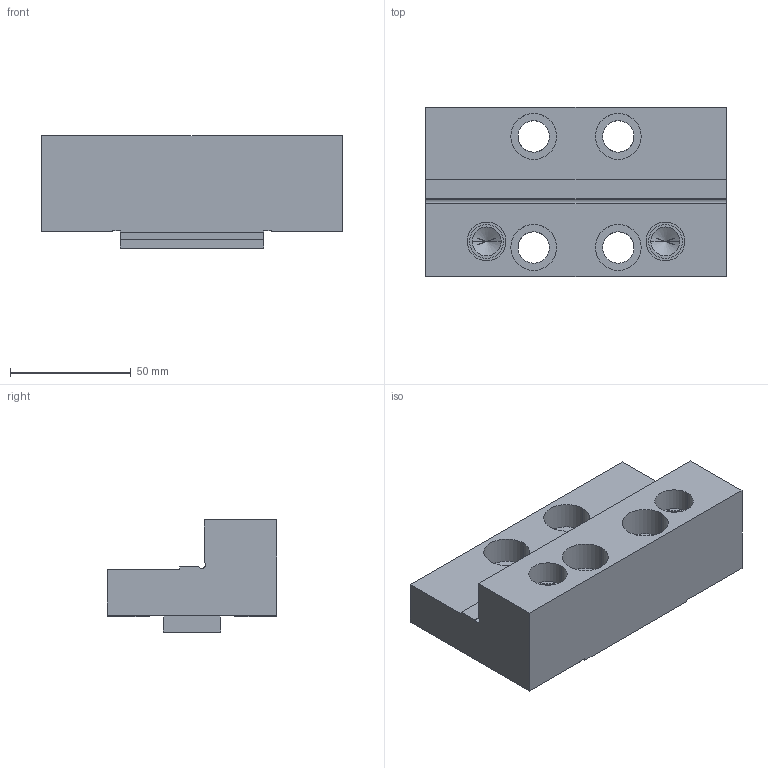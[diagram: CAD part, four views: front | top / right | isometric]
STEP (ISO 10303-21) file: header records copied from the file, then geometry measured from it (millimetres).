
FILE_DESCRIPTION((''),'2;1');
FILE_NAME('FG_VC_HIPR_C0062NP001','2026-03-16T12:50:23',('Admin'),(''),'CREO PARAMETRIC BY PTC INC, 2025010','CREO PARAMETRIC BY PTC INC, 2025010','');
FILE_SCHEMA(('CONFIG_CONTROL_DESIGN'));
Length unit declared in the file: millimetre
Products named in the file (1): FG_VC_HIPR_C0062NP001
Bounding box: 124.4 x 70 x 46.5 mm (x, y, z)
Volume: 224097 mm3; surface area: 40200.3 mm2
Topology: 1 solids, 3 shells, 77 faces, 213 edges, 140 vertices
Faces by surface type: plane 44, cylinder 29, cone 4
Entity records: 2506 total; most frequent: DIRECTION 435, CARTESIAN_POINT 427, ORIENTED_EDGE 410, EDGE_CURVE 209, AXIS2_PLACEMENT_3D 148, VERTEX_POINT 140, VECTOR 139, LINE 139
